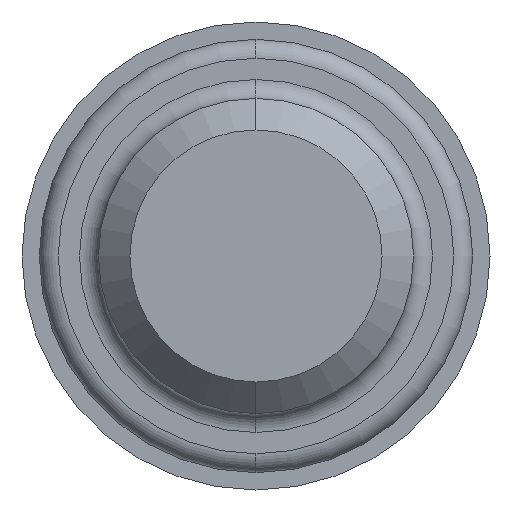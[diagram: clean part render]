
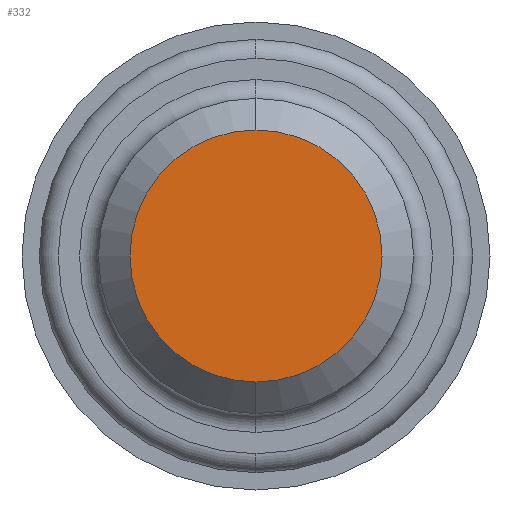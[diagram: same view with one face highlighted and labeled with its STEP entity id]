
A CAD part, left-side view. The second image highlights one B-rep face of the part: STEP entity #332.
In plain terms, the highlighted planar face has unit normal (-1, 0, 0).
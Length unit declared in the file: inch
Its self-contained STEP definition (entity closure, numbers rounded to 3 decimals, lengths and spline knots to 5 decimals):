
#5 = ORIENTED_EDGE ( 'NONE', *, *, #63, .T. ) ;
#16 = CARTESIAN_POINT ( 'NONE',  ( 0., 0., 0. ) ) ;
#63 = EDGE_CURVE ( 'NONE', #723, #362, #120, .T. ) ;
#84 = DIRECTION ( 'NONE',  ( -1., 0., 0. ) ) ;
#120 = CIRCLE ( 'NONE', #310, 0.19985 ) ;
#143 = AXIS2_PLACEMENT_3D ( 'NONE', #16, #593, #208 ) ;
#152 = CARTESIAN_POINT ( 'NONE',  ( 0., 0., 0.19985 ) ) ;
#208 = DIRECTION ( 'NONE',  ( 0., 0., -1. ) ) ;
#294 = ORIENTED_EDGE ( 'NONE', *, *, #809, .T. ) ;
#310 = AXIS2_PLACEMENT_3D ( 'NONE', #647, #84, #343 ) ;
#321 = CIRCLE ( 'NONE', #776, 0.19985 ) ;
#332 = ADVANCED_FACE ( 'NONE', ( #529 ), #400, .F. ) ;
#343 = DIRECTION ( 'NONE',  ( 0., 0., 1. ) ) ;
#362 = VERTEX_POINT ( 'NONE', #152 ) ;
#400 = PLANE ( 'NONE',  #143 ) ;
#499 = CARTESIAN_POINT ( 'NONE',  ( 0., 0., -0.19985 ) ) ;
#501 = CARTESIAN_POINT ( 'NONE',  ( 0., 0., 0. ) ) ;
#529 = FACE_OUTER_BOUND ( 'NONE', #712, .T. ) ;
#570 = DIRECTION ( 'NONE',  ( 0., 0., 1. ) ) ;
#593 = DIRECTION ( 'NONE',  ( 1., 0., 0. ) ) ;
#647 = CARTESIAN_POINT ( 'NONE',  ( 0., 0., 0. ) ) ;
#692 = DIRECTION ( 'NONE',  ( -1., 0., 0. ) ) ;
#712 = EDGE_LOOP ( 'NONE', ( #5, #294 ) ) ;
#723 = VERTEX_POINT ( 'NONE', #499 ) ;
#776 = AXIS2_PLACEMENT_3D ( 'NONE', #501, #692, #570 ) ;
#809 = EDGE_CURVE ( 'NONE', #362, #723, #321, .T. ) ;
